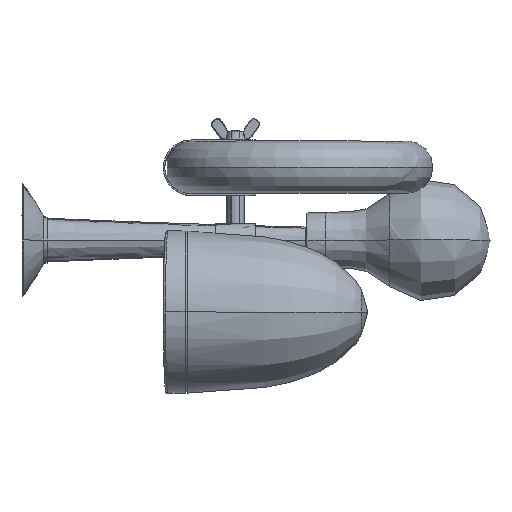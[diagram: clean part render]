
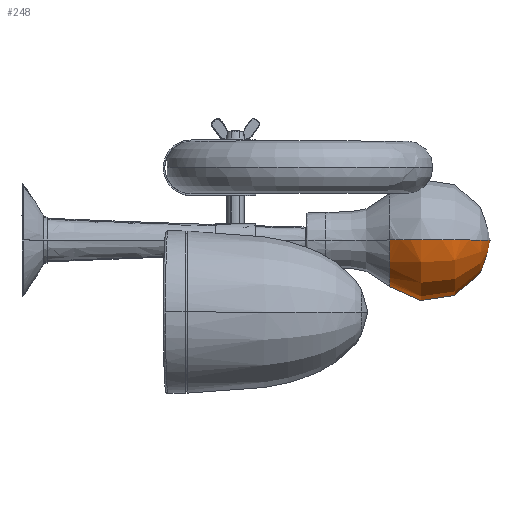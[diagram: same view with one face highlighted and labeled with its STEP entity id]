
A CAD part, top view. The second image highlights one B-rep face of the part: STEP entity #248.
In plain terms, the highlighted free-form (B-spline) face has degree [2, 2] with [5, 5] control points.
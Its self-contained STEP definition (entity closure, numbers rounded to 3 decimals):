
#248=ADVANCED_FACE('',(#424),#2565,.T.);
#424=FACE_OUTER_BOUND('',#617,.T.);
#617=EDGE_LOOP('',(#1148,#1149,#1150));
#1148=ORIENTED_EDGE('',*,*,#1638,.T.);
#1149=ORIENTED_EDGE('',*,*,#1640,.T.);
#1150=ORIENTED_EDGE('',*,*,#1642,.F.);
#1638=EDGE_CURVE('',#2329,#2330,#2105,.T.);
#1640=EDGE_CURVE('',#2330,#2332,#2106,.T.);
#1642=EDGE_CURVE('',#2329,#2332,#2108,.T.);
#2105=(
BOUNDED_CURVE()
B_SPLINE_CURVE(2,(#11587,#11588,#11589,#11590,#11591),.UNSPECIFIED.,.F.,
 .F.)
B_SPLINE_CURVE_WITH_KNOTS((3,2,3),(131.947,163.759,195.571),
 .UNSPECIFIED.)
CURVE()
GEOMETRIC_REPRESENTATION_ITEM()
RATIONAL_B_SPLINE_CURVE((1.,0.843,1.,0.843,1.))
REPRESENTATION_ITEM('')
);
#2106=(
BOUNDED_CURVE()
B_SPLINE_CURVE(2,(#11597,#11598,#11599,#11600,#11601),.UNSPECIFIED.,.F.,
 .F.)
B_SPLINE_CURVE_WITH_KNOTS((3,2,3),(0.,1.571,3.142),
 .UNSPECIFIED.)
CURVE()
GEOMETRIC_REPRESENTATION_ITEM()
RATIONAL_B_SPLINE_CURVE((1.,0.707,1.,0.707,1.))
REPRESENTATION_ITEM('')
);
#2108=(
BOUNDED_CURVE()
B_SPLINE_CURVE(2,(#11607,#11608,#11609,#11610,#11611),.UNSPECIFIED.,.F.,
 .F.)
B_SPLINE_CURVE_WITH_KNOTS((3,2,3),(131.947,163.759,195.571),
 .UNSPECIFIED.)
CURVE()
GEOMETRIC_REPRESENTATION_ITEM()
RATIONAL_B_SPLINE_CURVE((1.,0.843,1.,0.843,1.))
REPRESENTATION_ITEM('')
);
#2329=VERTEX_POINT('',#11582);
#2330=VERTEX_POINT('',#11583);
#2332=VERTEX_POINT('',#11585);
#2565=(
BOUNDED_SURFACE()
B_SPLINE_SURFACE(2,2,((#11502,#11503,#11504,#11505,#11506),(#11507,#11508,
#11509,#11510,#11511),(#11512,#11513,#11514,#11515,#11516),(#11517,#11518,
#11519,#11520,#11521),(#11522,#11523,#11524,#11525,#11526)),
 .UNSPECIFIED.,.F.,.F.,.F.)
B_SPLINE_SURFACE_WITH_KNOTS((3,2,3),(3,2,3),(131.947,163.759,
195.571),(0.,1.571,3.142),.UNSPECIFIED.)
GEOMETRIC_REPRESENTATION_ITEM()
RATIONAL_B_SPLINE_SURFACE(((1.,0.707,1.,0.707,1.),
(0.843,0.596,0.843,0.596,
0.843),(1.,0.707,1.,0.707,1.),(0.843,
0.596,0.843,0.596,0.843),
(1.,0.707,1.,0.707,1.)))
REPRESENTATION_ITEM('')
SURFACE()
);
#11502=CARTESIAN_POINT('',(686.821,-1333.048,788.431));
#11503=CARTESIAN_POINT('',(686.821,-1333.048,788.431));
#11504=CARTESIAN_POINT('',(686.821,-1333.048,788.431));
#11505=CARTESIAN_POINT('',(686.821,-1333.048,788.431));
#11506=CARTESIAN_POINT('',(686.821,-1333.048,788.431));
#11507=CARTESIAN_POINT('',(686.821,-1333.048,806.302));
#11508=CARTESIAN_POINT('',(686.821,-1350.919,806.302));
#11509=CARTESIAN_POINT('',(686.821,-1350.919,788.431));
#11510=CARTESIAN_POINT('',(686.821,-1350.919,770.56));
#11511=CARTESIAN_POINT('',(686.821,-1333.048,770.56));
#11512=CARTESIAN_POINT('',(670.612,-1333.048,813.828));
#11513=CARTESIAN_POINT('',(670.612,-1358.444,813.828));
#11514=CARTESIAN_POINT('',(670.612,-1358.444,788.431));
#11515=CARTESIAN_POINT('',(670.612,-1358.444,763.035));
#11516=CARTESIAN_POINT('',(670.612,-1333.048,763.035));
#11517=CARTESIAN_POINT('',(654.403,-1333.048,821.353));
#11518=CARTESIAN_POINT('',(654.403,-1365.97,821.353));
#11519=CARTESIAN_POINT('',(654.403,-1365.97,788.431));
#11520=CARTESIAN_POINT('',(654.403,-1365.97,755.509));
#11521=CARTESIAN_POINT('',(654.403,-1333.048,755.509));
#11522=CARTESIAN_POINT('',(640.752,-1333.048,809.82));
#11523=CARTESIAN_POINT('',(640.752,-1354.437,809.82));
#11524=CARTESIAN_POINT('',(640.752,-1354.437,788.431));
#11525=CARTESIAN_POINT('',(640.752,-1354.437,767.042));
#11526=CARTESIAN_POINT('',(640.752,-1333.048,767.042));
#11582=CARTESIAN_POINT('',(686.821,-1333.048,788.431));
#11583=CARTESIAN_POINT('',(640.752,-1333.048,809.82));
#11585=CARTESIAN_POINT('',(640.752,-1333.048,767.042));
#11587=CARTESIAN_POINT('',(686.821,-1333.048,788.431));
#11588=CARTESIAN_POINT('',(686.821,-1333.048,806.302));
#11589=CARTESIAN_POINT('',(670.612,-1333.048,813.828));
#11590=CARTESIAN_POINT('',(654.403,-1333.048,821.353));
#11591=CARTESIAN_POINT('',(640.752,-1333.048,809.82));
#11597=CARTESIAN_POINT('',(640.752,-1333.048,809.82));
#11598=CARTESIAN_POINT('',(640.752,-1354.437,809.82));
#11599=CARTESIAN_POINT('',(640.752,-1354.437,788.431));
#11600=CARTESIAN_POINT('',(640.752,-1354.437,767.042));
#11601=CARTESIAN_POINT('',(640.752,-1333.048,767.042));
#11607=CARTESIAN_POINT('',(686.821,-1333.048,788.431));
#11608=CARTESIAN_POINT('',(686.821,-1333.048,770.56));
#11609=CARTESIAN_POINT('',(670.612,-1333.048,763.035));
#11610=CARTESIAN_POINT('',(654.403,-1333.048,755.509));
#11611=CARTESIAN_POINT('',(640.752,-1333.048,767.042));
